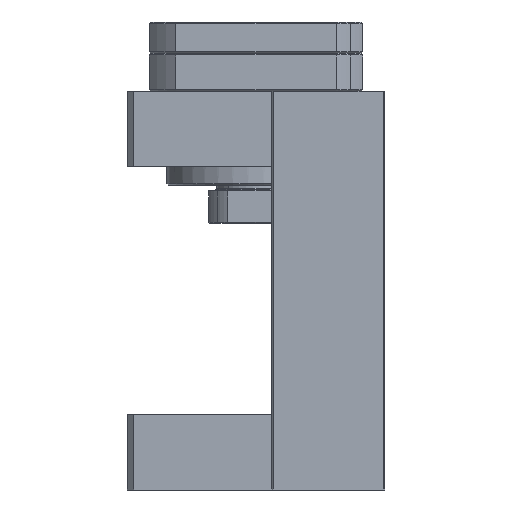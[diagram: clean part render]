
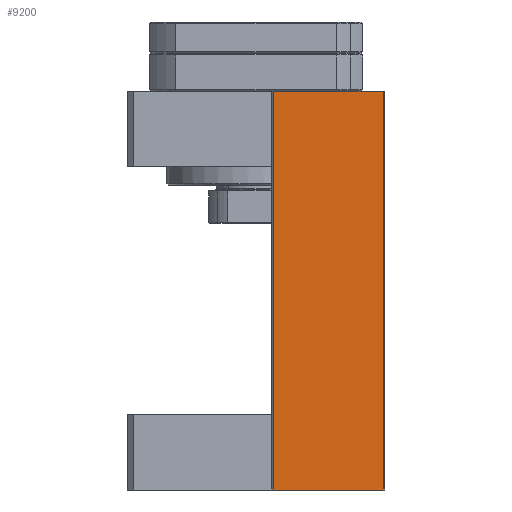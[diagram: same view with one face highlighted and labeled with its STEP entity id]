
A CAD part, left-side view. The second image highlights one B-rep face of the part: STEP entity #9200.
In plain terms, the highlighted planar face has unit normal (-1, 0, 0).
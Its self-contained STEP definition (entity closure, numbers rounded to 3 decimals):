
#1128 = AXIS2_PLACEMENT_3D ( 'NONE', #5814, #3117, #10752 ) ;
#1208 = VECTOR ( 'NONE', #5371, 1000. ) ;
#1519 = DIRECTION ( 'NONE',  ( 0., -1., 0. ) ) ;
#2418 = ORIENTED_EDGE ( 'NONE', *, *, #13133, .F. ) ;
#2422 = CARTESIAN_POINT ( 'NONE',  ( -64., -5.5, -127. ) ) ;
#2484 = VECTOR ( 'NONE', #12019, 1000. ) ;
#2502 = CARTESIAN_POINT ( 'NONE',  ( -64., -40.5, 0. ) ) ;
#2829 = ORIENTED_EDGE ( 'NONE', *, *, #11062, .F. ) ;
#3117 = DIRECTION ( 'NONE',  ( -1., 0., 0. ) ) ;
#3405 = ORIENTED_EDGE ( 'NONE', *, *, #7522, .T. ) ;
#4439 = CARTESIAN_POINT ( 'NONE',  ( -64., -40.5, -127. ) ) ;
#4611 = DIRECTION ( 'NONE',  ( 0., 0., 1. ) ) ;
#5371 = DIRECTION ( 'NONE',  ( 0., -1., 0. ) ) ;
#5446 = ORIENTED_EDGE ( 'NONE', *, *, #13011, .T. ) ;
#5814 = CARTESIAN_POINT ( 'NONE',  ( -64., -40.5, -127. ) ) ;
#6076 = VERTEX_POINT ( 'NONE', #6828 ) ;
#6828 = CARTESIAN_POINT ( 'NONE',  ( -64., -40.5, 0. ) ) ;
#7522 = EDGE_CURVE ( 'NONE', #10555, #6076, #11865, .T. ) ;
#8462 = CARTESIAN_POINT ( 'NONE',  ( -64., -40.5, -127. ) ) ;
#8848 = LINE ( 'NONE', #2502, #11540 ) ;
#8872 = EDGE_LOOP ( 'NONE', ( #2829, #2418, #5446, #3405 ) ) ;
#9200 = ADVANCED_FACE ( 'NONE', ( #15602 ), #11742, .T. ) ;
#9413 = VERTEX_POINT ( 'NONE', #2422 ) ;
#10463 = LINE ( 'NONE', #4439, #1208 ) ;
#10516 = VERTEX_POINT ( 'NONE', #10723 ) ;
#10555 = VERTEX_POINT ( 'NONE', #8462 ) ;
#10723 = CARTESIAN_POINT ( 'NONE',  ( -64., -5.5, 0. ) ) ;
#10752 = DIRECTION ( 'NONE',  ( 0., 0., 1. ) ) ;
#10801 = VECTOR ( 'NONE', #4611, 1000. ) ;
#11062 = EDGE_CURVE ( 'NONE', #10516, #6076, #8848, .T. ) ;
#11540 = VECTOR ( 'NONE', #1519, 1000. ) ;
#11742 = PLANE ( 'NONE',  #1128 ) ;
#11779 = CARTESIAN_POINT ( 'NONE',  ( -64., -40.5, -127. ) ) ;
#11865 = LINE ( 'NONE', #11779, #2484 ) ;
#12008 = LINE ( 'NONE', #13499, #10801 ) ;
#12019 = DIRECTION ( 'NONE',  ( 0., 0., 1. ) ) ;
#13011 = EDGE_CURVE ( 'NONE', #9413, #10555, #10463, .T. ) ;
#13133 = EDGE_CURVE ( 'NONE', #9413, #10516, #12008, .T. ) ;
#13499 = CARTESIAN_POINT ( 'NONE',  ( -64., -5.5, -127. ) ) ;
#15602 = FACE_OUTER_BOUND ( 'NONE', #8872, .T. ) ;
